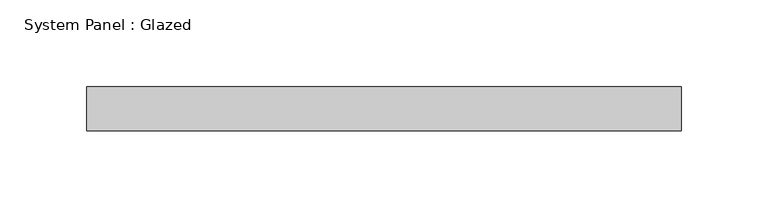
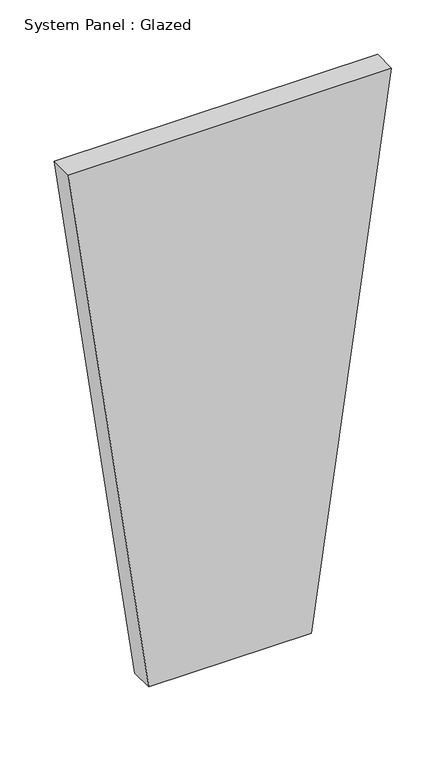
"""IFC4 building model written with IfcOpenShell, lengths in millimetres: plate geometry, System Panel : Glazed."""

from ifc_helpers import new_model, si_unit, frame, origin, place, context, project, spatial, polyline, outline, extrude, source, transform, mapped, element, save


def system_panel_glazed_b7e76020(model_context):
    return source(origin(), model_context, "Body", "SweptSolid", [
        extrude(outline(polyline([(0.0, -86.1026283), (0.0, 86.1026283), (603.610826, 171.3442302), (603.610826, -171.3442302), (0.0, -86.1026283)])), frame((0.0, -44.45, 0.0), z_axis=(0.0, 1.0, 0.0), x_axis=(0.0, 0.0, 1.0)), (0.0, 0.0, 1.0), 25.4),
    ])


if __name__ == "__main__":
    model = new_model("IFC4")
    model_context = context("Model", 3, world=origin())
    ifc_project = project(units=[si_unit("LENGTHUNIT", "METRE", prefix="MILLI")], contexts=[model_context])
    site = spatial("IfcSite", under=ifc_project)
    building = spatial("IfcBuilding", under=site)
    placement = place(None, origin())
    system_panel_glazed_shape = system_panel_glazed_b7e76020(model_context)
    element("IfcPlate", 1, ObjectType="System Panel : Glazed", at=placement, inside=building, context=model_context, shape_type="MappedRepresentation", body=[
        mapped(system_panel_glazed_shape, transform((0.0, 0.0, 0.0), x_axis=(1.0, 0.0, 0.0), y_axis=(0.0, 1.0, 0.0), z_axis=(0.0, 0.0, 1.0))),
    ])
    save(model, "model.ifc")
